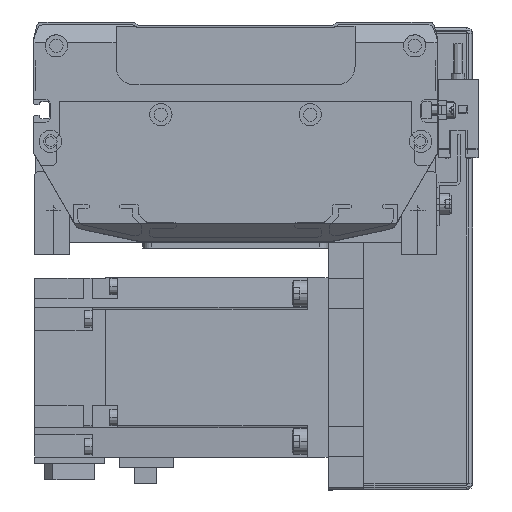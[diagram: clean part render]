
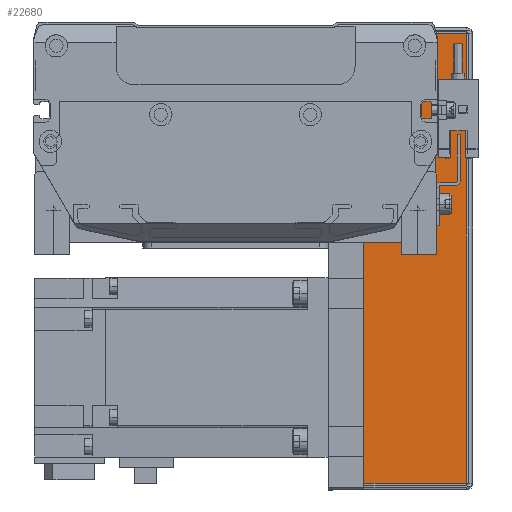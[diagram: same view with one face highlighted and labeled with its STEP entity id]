
A CAD part, front view. The second image highlights one B-rep face of the part: STEP entity #22680.
In plain terms, the highlighted planar face has unit normal (0, -1, 0).
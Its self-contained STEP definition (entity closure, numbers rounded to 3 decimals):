
#3065 = VECTOR ( 'NONE', #22249, 1000. ) ;
#5831 = VECTOR ( 'NONE', #29243, 1000. ) ;
#7079 = PLANE ( 'NONE',  #33183 ) ;
#7808 = DIRECTION ( 'NONE',  ( 0., 1., 0. ) ) ;
#8130 = DIRECTION ( 'NONE',  ( 0., 0., 1. ) ) ;
#8328 = LINE ( 'NONE', #17154, #11041 ) ;
#8778 = CARTESIAN_POINT ( 'NONE',  ( -34.793, -37., 34.263 ) ) ;
#8933 = VERTEX_POINT ( 'NONE', #8778 ) ;
#10239 = LINE ( 'NONE', #22479, #5831 ) ;
#10367 = FACE_OUTER_BOUND ( 'NONE', #21920, .T. ) ;
#10374 = DIRECTION ( 'NONE',  ( 1., 0., 0. ) ) ;
#11009 = CARTESIAN_POINT ( 'NONE',  ( 115.793, -37., 0. ) ) ;
#11041 = VECTOR ( 'NONE', #20534, 1000. ) ;
#11491 = CARTESIAN_POINT ( 'NONE',  ( -162.166, -37., 36.5 ) ) ;
#11868 = EDGE_CURVE ( 'NONE', #8933, #31549, #8328, .T. ) ;
#16905 = CARTESIAN_POINT ( 'NONE',  ( 115.793, -37., 34.263 ) ) ;
#17154 = CARTESIAN_POINT ( 'NONE',  ( -34.793, -37., 36.5 ) ) ;
#17717 = VECTOR ( 'NONE', #10374, 1000. ) ;
#18818 = ORIENTED_EDGE ( 'NONE', *, *, #11868, .T. ) ;
#18820 = VERTEX_POINT ( 'NONE', #16905 ) ;
#20534 = DIRECTION ( 'NONE',  ( 0., 0., -1. ) ) ;
#21014 = EDGE_CURVE ( 'NONE', #18820, #21532, #33663, .T. ) ;
#21532 = VERTEX_POINT ( 'NONE', #11009 ) ;
#21920 = EDGE_LOOP ( 'NONE', ( #37317, #35060, #18818, #38154 ) ) ;
#22249 = DIRECTION ( 'NONE',  ( 0., 0., -1. ) ) ;
#22479 = CARTESIAN_POINT ( 'NONE',  ( 118., -37., 34.263 ) ) ;
#22680 = ADVANCED_FACE ( 'NONE', ( #10367 ), #7079, .F. ) ;
#28105 = LINE ( 'NONE', #35100, #17717 ) ;
#29243 = DIRECTION ( 'NONE',  ( 1., 0., 0. ) ) ;
#30043 = EDGE_CURVE ( 'NONE', #31549, #21532, #28105, .T. ) ;
#31549 = VERTEX_POINT ( 'NONE', #32357 ) ;
#31994 = EDGE_CURVE ( 'NONE', #8933, #18820, #10239, .T. ) ;
#32357 = CARTESIAN_POINT ( 'NONE',  ( -34.793, -37., 0. ) ) ;
#33183 = AXIS2_PLACEMENT_3D ( 'NONE', #11491, #7808, #8130 ) ;
#33663 = LINE ( 'NONE', #36197, #3065 ) ;
#35060 = ORIENTED_EDGE ( 'NONE', *, *, #31994, .F. ) ;
#35100 = CARTESIAN_POINT ( 'NONE',  ( -162.166, -37., 0. ) ) ;
#36197 = CARTESIAN_POINT ( 'NONE',  ( 115.793, -37., 35. ) ) ;
#37317 = ORIENTED_EDGE ( 'NONE', *, *, #21014, .F. ) ;
#38154 = ORIENTED_EDGE ( 'NONE', *, *, #30043, .T. ) ;
